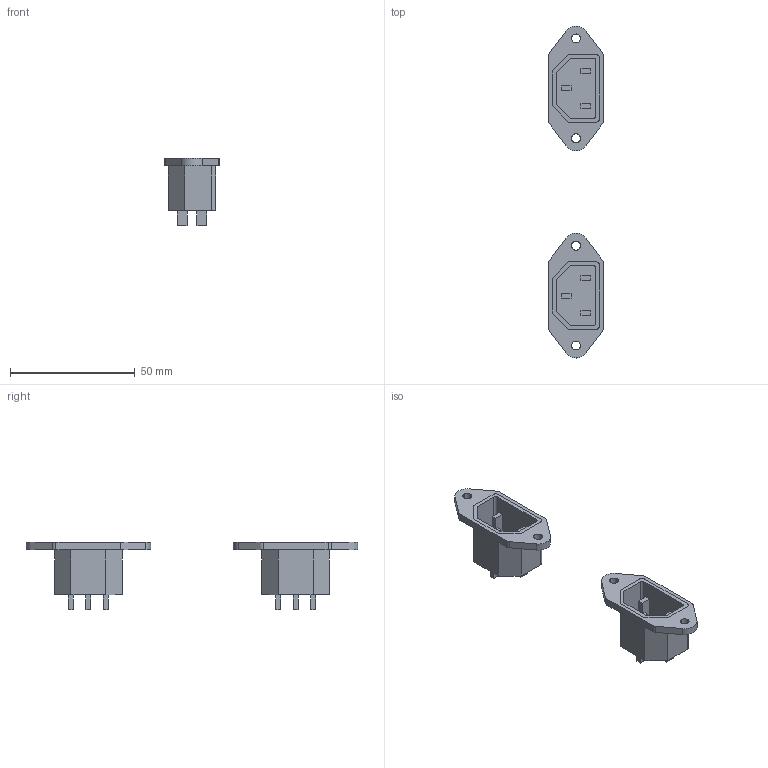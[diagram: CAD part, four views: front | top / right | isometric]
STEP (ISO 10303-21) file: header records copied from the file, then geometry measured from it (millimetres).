
FILE_DESCRIPTION(/* description */ (''),/* implementation_level */ '2;1');
FILE_NAME(/* name */ '9.electronics#9.3#la-dwp-3',/* time_stamp */ '2014-12-01T20:18:48+01:00',/* author */ (''),/* organization */ (''),/* preprocessor_version */ 'ST-DEVELOPER v14',/* originating_system */ '',/* authorisation */ '');
FILE_SCHEMA (('AUTOMOTIVE_DESIGN'));
Length unit declared in the file: millimetre
Products named in the file (1): Document
Bounding box: 22 x 133 x 27 mm (x, y, z)
Volume: 11108.5 mm3; surface area: 11140.8 mm2
Topology: 2 solids, 2 shells, 134 faces, 352 edges, 240 vertices
Faces by surface type: plane 70, bspline 64
Entity records: 8033 total; most frequent: CARTESIAN_POINT 3514, B_SPLINE_CURVE_WITH_KNOTS 754, ORIENTED_EDGE 704, PCURVE 704, DEFINITIONAL_REPRESENTATION 704, SURFACE_CURVE 352, EDGE_CURVE 352, VERTEX_POINT 240
